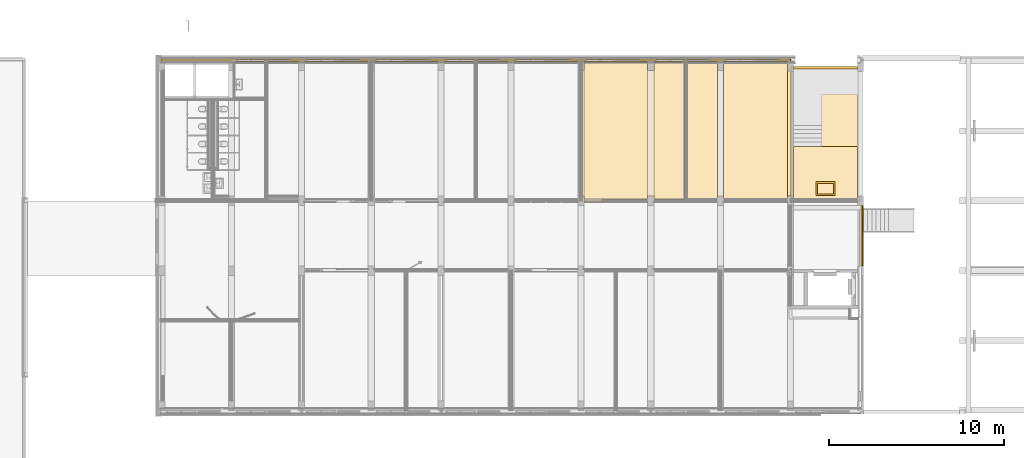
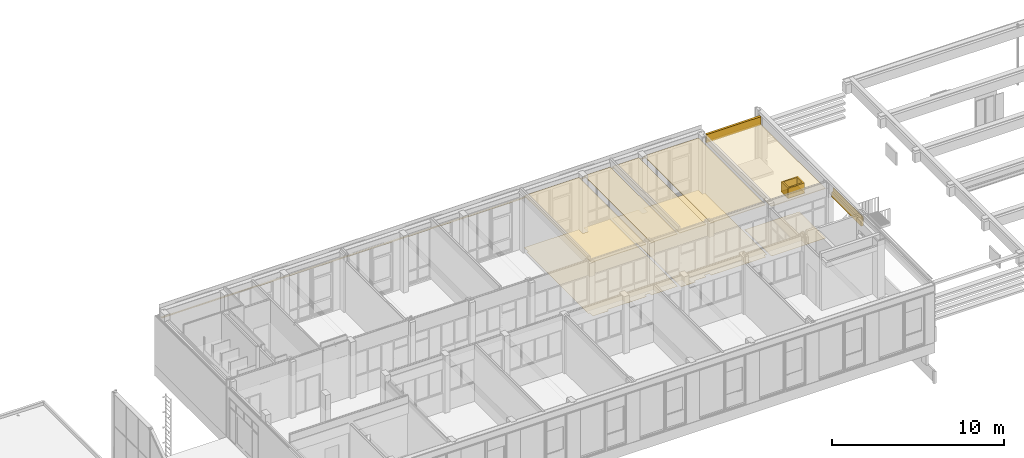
# One storey, part 46 of 54: 12 coverings.
"""IFC2X3 building model written with IfcOpenShell, lengths in millimetres."""

from ifc_helpers import new_model, entity, si_unit, converted_unit, derived_unit, money_unit, direction, frame, origin_with_axes, place, context, subcontext, project, spatial, faceted_brep, material, type_object, element, save


model = new_model("IFC2X3")

# Units and contexts
model_context = context("Model", 3, precision=0.01, world=origin_with_axes(), true_north=direction((0.0, 1.0)))
body_context = subcontext(model_context, "Body", "Model", "MODEL_VIEW")
ifc_project = project(units=[si_unit("LENGTHUNIT", "METRE", prefix="MILLI"), si_unit("AREAUNIT", "SQUARE_METRE"), si_unit("VOLUMEUNIT", "CUBIC_METRE"), converted_unit("PLANEANGLEUNIT", "DEGREE", entity("IfcPlaneAngleMeasure", 0.0174532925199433), si_unit("PLANEANGLEUNIT", "RADIAN"), dimensions=[0, 0, 0, 0, 0, 0, 0]), money_unit("EUR"), converted_unit("TIMEUNIT", "Year", entity("IfcTimeMeasure", 31557600.0), si_unit("TIMEUNIT", "SECOND"), dimensions=[0, 0, 1, 0, 0, 0, 0]), si_unit("MASSUNIT", "GRAM", prefix="KILO"), si_unit("THERMODYNAMICTEMPERATUREUNIT", "DEGREE_CELSIUS"), si_unit("LUMINOUSINTENSITYUNIT", "LUMEN"), si_unit("ENERGYUNIT", "JOULE", prefix="MEGA"), derived_unit("THERMALCONDUCTANCEUNIT", [(si_unit("POWERUNIT", "WATT"), 1), (si_unit("LENGTHUNIT", "METRE"), -1), (si_unit("THERMODYNAMICTEMPERATUREUNIT", "KELVIN"), -1)]), derived_unit("SPECIFICHEATCAPACITYUNIT", [(si_unit("ENERGYUNIT", "JOULE"), 1), (si_unit("MASSUNIT", "GRAM", prefix="KILO"), -1), (si_unit("THERMODYNAMICTEMPERATUREUNIT", "KELVIN"), -1)]), derived_unit("MASSDENSITYUNIT", [(si_unit("MASSUNIT", "GRAM", prefix="KILO"), 1), (si_unit("VOLUMEUNIT", "CUBIC_METRE"), -1)])], contexts=[model_context])

# Site, building, storey
site_placement = place(None, origin_with_axes())
site = spatial("IfcSite", under=ifc_project, at=site_placement, Name="<site naam>", CompositionType="ELEMENT")
building_placement = place(site_placement, origin_with_axes())
building = spatial("IfcBuilding", under=site, at=building_placement, Name="<Naam gebouw>", CompositionType="ELEMENT")
storey_placement = place(building_placement, frame((0.0, 0.0, 8500.0), z_axis=(0.0, 0.0, 1.0), x_axis=(1.0, 0.0, 0.0)))
storey = spatial("IfcBuildingStorey", under=building, at=storey_placement, Name="02 2e verdieping", CompositionType="ELEMENT", Elevation=8500.0)

# Coverings
ifc_material_1 = material(Name="systeemplafond 600*600 kleur wit")
covering_type_1 = type_object("IfcCoveringType", Name="PA-01a 40", PredefinedType="CEILING")
covering_1_placement = place(storey_placement, frame((39825.00013849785, 19924.99995693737, 3699.999999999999), z_axis=(0.0, 0.0, 1.0), x_axis=(1.0, 0.0, 0.0)))
element("IfcCovering", 1, at=covering_1_placement, inside=storey, type_object=covering_type_1, material=ifc_material_1, Name="45_Vloer_PA-01a", PredefinedType="CEILING", context=body_context, shape_type="Brep", body=[
    faceted_brep([(0.0, -7832.990729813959, 0.0), (0.0, -34.49995693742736, 0.0), (0.0, -34.49995693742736, 40.00000000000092), (0.0, -7832.990729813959, 40.00000000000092), (-3650.000081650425, -7832.990729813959, 0.0), (-3650.000081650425, -34.49995693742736, 0.0), (-3650.000081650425, -34.49995693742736, 39.99999999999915), (-3650.000081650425, -7832.990729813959, 40.00000000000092)], [[[0, 1, 2, 3]], [[4, 5, 1, 0]], [[5, 6, 2, 1]], [[3, 2, 6, 7]], [[3, 7, 4, 0]], [[7, 6, 5, 4]]]),
])
covering_2_placement = place(storey_placement, frame((42074.81223377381, 19925.0000037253, 3699.999999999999), z_axis=(0.0, 0.0, 1.0), x_axis=(1.0, 0.0, 0.0)))
element("IfcCovering", 2, at=covering_2_placement, inside=storey, type_object=covering_type_1, material=ifc_material_1, Name="45_Vloer_PA-01a", PredefinedType="CEILING", context=body_context, shape_type="Brep", body=[
    faceted_brep([(1750.187702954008, -7832.990749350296, 0.0), (1750.187702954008, -34.50000372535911, 0.0), (1750.187702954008, -34.50000372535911, 40.00000000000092), (1750.187702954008, -7832.990749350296, 40.00000000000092), (0.0, -7832.990749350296, 0.0), (0.0, -34.50000372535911, 0.0), (0.0, -34.50000372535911, 39.99999999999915), (0.0, -7832.990749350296, 40.00000000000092)], [[[0, 1, 2, 3]], [[4, 5, 1, 0]], [[5, 6, 2, 1]], [[3, 2, 6, 7]], [[3, 7, 4, 0]], [[7, 6, 5, 4]]]),
])
covering_3_placement = place(storey_placement, frame((44175.0000463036, 12274.99997258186, 3699.999999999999), z_axis=(0.0, 0.0, 1.0), x_axis=(1.0, 0.0, 0.0)))
element("IfcCovering", 3, at=covering_3_placement, inside=storey, type_object=covering_type_1, material=ifc_material_1, Name="45_Vloer_PA-01a", PredefinedType="CEILING", context=body_context, shape_type="Brep", body=[
    faceted_brep([(3649.999873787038, -182.9907182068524, 0.0), (3649.999873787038, 7615.500027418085, 0.0), (3649.999873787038, 7615.500027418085, 40.00000000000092), (3649.999873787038, -182.9907182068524, 40.00000000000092), (0.0, -182.9907182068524, 0.0), (0.0, 7615.500027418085, 0.0), (0.0, 7615.500027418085, 39.99999999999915), (0.0, -182.9907182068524, 40.00000000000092)], [[[0, 1, 2, 3]], [[4, 5, 1, 0]], [[5, 6, 2, 1]], [[3, 2, 6, 7]], [[3, 7, 4, 0]], [[7, 6, 5, 4]]]),
])
covering_4_placement = place(storey_placement, frame((40174.99999981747, 19924.99990535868, 3699.999999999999), z_axis=(0.0, 0.0, 1.0), x_axis=(1.0, 0.0, 0.0)))
element("IfcCovering", 4, at=covering_4_placement, inside=storey, type_object=covering_type_1, material=ifc_material_1, Name="45_Vloer_PA-01a", PredefinedType="CEILING", context=body_context, shape_type="Brep", body=[
    faceted_brep([(1749.996095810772, -7832.990617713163, 0.0), (1749.996095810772, -34.49990535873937, 0.0), (1749.996095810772, -34.49990535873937, 40.00000000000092), (1749.996095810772, -7832.990617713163, 40.00000000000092), (-0.0001221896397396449, -7832.990617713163, 0.0), (-8.874806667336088e-06, -34.49990535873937, 0.0), (-8.874806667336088e-06, -34.49990535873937, 40.00000000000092), (-0.0001221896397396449, -7832.990617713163, 40.00000000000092)], [[[0, 1, 2, 3]], [[4, 5, 1, 0]], [[5, 6, 2, 1]], [[3, 2, 6, 7]], [[3, 7, 4, 0]], [[7, 6, 5, 4]]]),
])
ifc_material_2 = material(Name="systeemplafond 600*600")
covering_type_2 = type_object("IfcCoveringType", Name="PA-01c 40", PredefinedType="CEILING")
covering_5_placement = place(storey_placement, frame((51825.02684814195, 19685.91067811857, 3462.999999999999), z_axis=(0.0, 0.0, 1.0), x_axis=(1.0, 0.0, 0.0)))
element("IfcCovering", 5, at=covering_5_placement, inside=storey, type_object=covering_type_2, material=ifc_material_2, Name="45_Vloer_PA-01c", PredefinedType="CEILING", context=body_context, shape_type="Brep", body=[
    faceted_brep([(0.0, 0.0, 40.00000000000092), (0.0, 0.0, 0.0), (-3650.026848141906, 0.0, 0.0), (-3650.026848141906, 0.0, 40.00000000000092), (0.0, -7610.910678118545, 40.00000000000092), (0.0, -7610.910678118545, 0.0), (-3650.026848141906, -7610.910678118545, 0.0), (-2375.02676945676, -6591.818995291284, 0.0), (-2375.02676945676, -7391.818995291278, 0.0), (-1275.026769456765, -7391.818995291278, 0.0), (-1275.026769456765, -6591.818995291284, 0.0), (-3650.026848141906, -7610.910678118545, 40.00000000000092), (-1275.026769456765, -7391.818995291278, 40.00000000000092), (-2375.02676945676, -7391.818995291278, 40.00000000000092), (-2375.02676945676, -6591.818995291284, 40.00000000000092), (-1275.026769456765, -6591.818995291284, 40.00000000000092)], [[[0, 1, 2, 3]], [[4, 5, 1, 0]], [[2, 1, 5, 6], [7, 8, 9, 10]], [[3, 2, 6, 11]], [[4, 0, 3, 11], [12, 13, 14, 15]], [[11, 6, 5, 4]], [[13, 8, 7, 14]], [[12, 9, 8, 13]], [[15, 10, 9, 12]], [[14, 7, 10, 15]]]),
])
ifc_material_3 = material(Name="Behoud natuursteen tegels")
covering_type_3 = type_object("IfcCoveringType", Name="VA-06 3", PredefinedType="CEILING")
covering_6_placement = place(storey_placement, frame((48175.00000000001, 12022.55598975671, 0.0), z_axis=(0.0, 0.0, 1.0), x_axis=(1.0, 0.0, 0.0)))
element("IfcCovering", 6, at=covering_6_placement, inside=storey, type_object=covering_type_3, material=ifc_material_3, Name="43_Vloer_VA-06", PredefinedType="CEILING", context=body_context, shape_type="Brep", body=[
    faceted_brep([(0.0, 0.0, 3.000000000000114), (0.0, 0.0, 0.0), (3649.984182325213, 0.0, 0.0), (3649.984182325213, 0.0, 3.000000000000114), (0.0, 3097.444010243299, 3.000000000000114), (0.0, 3097.444010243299, 0.0), (3649.984182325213, 3097.444010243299, 0.0), (3649.984182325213, 3097.444010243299, 3.000000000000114)], [[[0, 1, 2, 3]], [[4, 5, 1, 0]], [[2, 1, 5, 6]], [[3, 2, 6, 7]], [[4, 0, 3, 7]], [[7, 6, 5, 4]]]),
])
ifc_material_4 = material(Name="Vinyl type 01a")
covering_type_4 = type_object("IfcCoveringType", Name="VA-01a 3", PredefinedType="CEILING")
covering_7_placement = place(storey_placement, frame((42074.81225075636, 11925.00000000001, 19.99999999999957), z_axis=(0.0, 0.0, 1.0), x_axis=(1.0, 0.0, 0.0)))
element("IfcCovering", 7, at=covering_7_placement, inside=storey, type_object=covering_type_4, material=ifc_material_4, Name="43_Vloer_VA-01a", PredefinedType="CEILING", context=body_context, shape_type="Brep", body=[
    faceted_brep([(0.0, 0.0, 3.000000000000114), (0.0, 0.0, 0.0), (967.3227914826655, 0.0, 0.0), (967.3227914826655, 0.0, 3.000000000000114), (0.0, 7999.999969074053, 3.000000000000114), (0.0, 7999.999969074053, 0.0), (1750.187748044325, 7999.999969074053, 0.0), (1750.187748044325, 7525.000090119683, 0.0), (2100.187746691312, 7525.000090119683, 0.0), (2100.187746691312, 7999.999969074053, 0.0), (5750.187732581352, 7999.999969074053, 0.0), (5750.187732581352, 7525.000090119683, 0.0), (5940.265694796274, 7525.000090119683, 0.0), (5940.265694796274, 349.9998794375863, 0.0), (5750.187613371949, 349.9998794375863, 0.0), (5750.187613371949, 149.9999994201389, 0.0), (2100.187746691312, 149.9999994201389, 0.0), (2100.187746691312, 350.0001178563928, 0.0), (1750.187748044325, 350.0001178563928, 0.0), (1750.187748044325, 149.9999994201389, 0.0), (967.3227914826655, 149.9999994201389, 0.0), (967.3227914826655, 149.9999994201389, 3.000000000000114), (1750.187748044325, 149.9999994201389, 3.000000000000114), (1750.187748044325, 350.0001178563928, 3.000000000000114), (2100.187746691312, 350.0001178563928, 3.000000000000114), (2100.187746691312, 149.9999994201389, 3.000000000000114), (5750.187613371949, 149.9999994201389, 3.000000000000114), (5750.187613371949, 349.9998794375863, 3.000000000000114), (5940.265694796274, 349.9998794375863, 3.000000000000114), (5940.265694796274, 7525.000090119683, 3.000000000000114), (5750.187732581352, 7525.000090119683, 3.000000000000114), (5750.187732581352, 7999.999969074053, 3.000000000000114), (2100.187746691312, 7999.999969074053, 3.000000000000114), (2100.187746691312, 7525.000090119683, 3.000000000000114), (1750.187748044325, 7525.000090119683, 3.000000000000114), (1750.187748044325, 7999.999969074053, 3.000000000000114)], [[[0, 1, 2, 3]], [[4, 5, 1, 0]], [[2, 1, 5, 6, 7, 8, 9, 10, 11, 12, 13, 14, 15, 16, 17, 18, 19, 20]], [[3, 2, 20, 21]], [[4, 0, 3, 21, 22, 23, 24, 25, 26, 27, 28, 29, 30, 31, 32, 33, 34, 35]], [[35, 6, 5, 4]], [[34, 7, 6, 35]], [[33, 8, 7, 34]], [[32, 9, 8, 33]], [[31, 10, 9, 32]], [[30, 11, 10, 31]], [[29, 12, 11, 30]], [[28, 13, 12, 29]], [[27, 14, 13, 28]], [[26, 15, 14, 27]], [[25, 16, 15, 26]], [[24, 17, 16, 25]], [[23, 18, 17, 24]], [[22, 19, 18, 23]], [[21, 20, 19, 22]]]),
])
covering_8_placement = place(storey_placement, frame((36075.03749826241, 19449.99975133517, 19.99999999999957), z_axis=(0.0, 0.0, 1.0), x_axis=(1.0, 0.0, 0.0)))
element("IfcCovering", 8, at=covering_8_placement, inside=storey, type_object=covering_type_4, material=ifc_material_4, Name="43_Vloer_VA-01a", PredefinedType="CEILING", context=body_context, shape_type="Brep", body=[
    faceted_brep([(0.0, 0.0, 3.000000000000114), (0.0, 0.0, 0.0), (0.0, -7174.99951864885, 0.0), (0.0, -7174.99951864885, 3.000000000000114), (99.96251766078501, 0.0004759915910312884, 3.000000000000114), (99.96251766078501, 0.0004759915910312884, 0.0), (99.96251766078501, 475.000217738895, 0.0), (3751.282931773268, 475.000217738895, 0.0), (3751.282931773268, 0.0003569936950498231, 0.0), (4099.962597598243, 0.0003569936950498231, 0.0), (4099.962597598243, 475.000217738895, 0.0), (5849.958646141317, 475.000217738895, 0.0), (5849.958646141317, -7374.999751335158, 0.0), (4099.962597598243, -7374.999751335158, 0.0), (4099.962597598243, -7174.999637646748, 0.0), (3749.962412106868, -7174.999637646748, 0.0), (3749.962412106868, -7374.218375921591, 0.0), (1133.962501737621, -7374.218375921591, 0.0), (1133.962501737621, -7524.999751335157, 0.0), (99.96251766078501, -7524.999751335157, 0.0), (99.96251766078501, -7174.99951864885, 0.0), (99.96251766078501, -7174.99951864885, 3.000000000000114), (99.96251766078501, -7524.999751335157, 3.000000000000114), (1133.962501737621, -7524.999751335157, 3.000000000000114), (1133.962501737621, -7374.218375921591, 3.000000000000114), (3749.962412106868, -7374.218375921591, 3.000000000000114), (3749.962412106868, -7174.999637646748, 3.000000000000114), (4099.962597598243, -7174.999637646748, 3.000000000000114), (4099.962597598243, -7374.999751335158, 3.000000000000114), (5849.958646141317, -7374.999751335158, 3.000000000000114), (5849.958646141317, 475.000217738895, 3.000000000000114), (4099.962597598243, 475.000217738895, 3.000000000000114), (4099.962597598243, 0.0003569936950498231, 3.000000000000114), (3751.282931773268, 0.0003569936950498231, 3.000000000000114), (3751.282931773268, 475.000217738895, 3.000000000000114), (99.96251766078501, 475.000217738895, 3.000000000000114)], [[[0, 1, 2, 3]], [[4, 5, 1, 0]], [[2, 1, 5, 6, 7, 8, 9, 10, 11, 12, 13, 14, 15, 16, 17, 18, 19, 20]], [[3, 2, 20, 21]], [[4, 0, 3, 21, 22, 23, 24, 25, 26, 27, 28, 29, 30, 31, 32, 33, 34, 35]], [[35, 6, 5, 4]], [[34, 7, 6, 35]], [[33, 8, 7, 34]], [[32, 9, 8, 33]], [[31, 10, 9, 32]], [[30, 11, 10, 31]], [[29, 12, 11, 30]], [[28, 13, 12, 29]], [[27, 14, 13, 28]], [[26, 15, 14, 27]], [[25, 16, 15, 26]], [[24, 17, 16, 25]], [[23, 18, 17, 24]], [[22, 19, 18, 23]], [[21, 20, 19, 22]]]),
])
ifc_material_5 = material(Name="akoestisch spuitwerk")
covering_type_5 = type_object("IfcCoveringType", Name="PA-06 25", PredefinedType="CEILING")
covering_9_placement = place(storey_placement, frame((11934.99999662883, 19999.99999627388, 3460.000000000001), z_axis=(0.0, 0.0, 1.0), x_axis=(1.0, 0.0, 0.0)))
element("IfcCovering", 9, at=covering_9_placement, inside=storey, type_object=covering_type_5, material=ifc_material_5, Name="45_Vloer_PA-06", PredefinedType="CEILING", context=body_context, shape_type="Brep", body=[
    faceted_brep([(0.0, 0.0, 25.00000000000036), (0.0, 0.0, 0.0), (36080.07785763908, 0.0, 0.0), (36080.07785763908, 0.0, 25.00000000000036), (0.0, 110.0000037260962, 25.00000000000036), (0.0, 110.0000037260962, 0.0), (36080.07785763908, 110.0000037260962, 0.0), (36080.07785763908, 110.0000037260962, 25.00000000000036)], [[[0, 1, 2, 3]], [[4, 5, 1, 0]], [[2, 1, 5, 6]], [[3, 2, 6, 7]], [[4, 0, 3, 7]], [[7, 6, 5, 4]]]),
])
ifc_material_6 = material(Name="koven gips")
covering_type_6 = type_object("IfcCoveringType", Name="koven gips 620", PredefinedType="CEILING")
covering_10_placement = place(storey_placement, frame((52024.99845106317, 11725.00000000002, 3039.999999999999), z_axis=(0.0, 0.0, 1.0), x_axis=(1.0, 0.0, 0.0)))
element("IfcCovering", 10, at=covering_10_placement, inside=storey, type_object=covering_type_6, material=ifc_material_6, Name="45_Vloer_koven", PredefinedType="CEILING", context=body_context, shape_type="Brep", body=[
    faceted_brep([(0.0, 0.0, 0.0), (0.0, 0.0, 350.0000000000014), (110.0015489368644, 0.0, 350.0000000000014), (110.0015489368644, 0.0, 620.000000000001), (150.0015489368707, 0.0, 620.000000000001), (150.0015489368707, 0.0, 0.0), (0.0, -3449.999999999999, 0.0), (0.0, -3449.999999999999, 350.0000000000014), (110.0015489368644, -3449.999999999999, 350.0000000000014), (110.0015489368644, -3449.999999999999, 620.000000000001), (150.0015489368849, -3449.999999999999, 620.000000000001), (150.0015489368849, -3449.999999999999, 0.0)], [[[0, 1, 2, 3, 4, 5]], [[6, 7, 1, 0]], [[8, 2, 1, 7]], [[8, 9, 3, 2]], [[4, 3, 9, 10]], [[5, 4, 10, 11]], [[5, 11, 6, 0]], [[9, 8, 7, 6, 11, 10]]]),
])
ifc_material_7 = material(Name="aftimmering/koven multiplex")
covering_type_7 = type_object("IfcCoveringType", Name="aftimmering/koven multiplex 584", PredefinedType="CEILING")
covering_11_placement = place(storey_placement, frame((51825.00000000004, 19685.91067811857, 3465.999999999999), z_axis=(0.0, 0.0, 1.0), x_axis=(1.0, 0.0, 0.0)))
element("IfcCovering", 11, at=covering_11_placement, inside=storey, type_object=covering_type_7, material=ifc_material_7, Name="45_Vloer_aftimmering/koven", PredefinedType="CEILING", context=body_context, shape_type="Brep", body=[
    faceted_brep([(0.0, 0.0, 584.2052666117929), (0.0, 0.0, 0.0), (-3649.999999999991, 0.0, 0.0), (-3649.999999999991, 0.0, 584.2052666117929), (0.0, -150.0000036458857, 584.2052666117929), (0.0, -150.0000036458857, 0.0), (-3649.999999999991, -150.0000036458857, 0.0), (-3649.999999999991, -150.0000036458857, 584.2052666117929)], [[[0, 1, 2, 3]], [[4, 5, 1, 0]], [[2, 1, 5, 6]], [[3, 2, 6, 7]], [[4, 0, 3, 7]], [[7, 6, 5, 4]]]),
])
covering_type_8 = type_object("IfcCoveringType", Name="aftimmering/koven multiplex 734", PredefinedType="CEILING")
covering_12_placement = place(storey_placement, frame((49450.00007868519, 12294.09168282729, 3465.999999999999), z_axis=(0.0, 0.0, 1.0), x_axis=(1.0, 0.0, 0.0)))
element("IfcCovering", 12, at=covering_12_placement, inside=storey, type_object=covering_type_8, material=ifc_material_7, Name="45_Vloer_aftimmering/koven", PredefinedType="CEILING", context=body_context, shape_type="Brep", body=[
    faceted_brep([(0.0, 0.0, 734.0000000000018), (0.0, 0.0, 0.0), (1099.999999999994, 0.0, 0.0), (1099.999999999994, 0.0, 734.0000000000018), (0.0, 799.9999999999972, 734.0000000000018), (0.0, 799.9999999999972, 0.0), (1099.999999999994, 799.9999999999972, 0.0), (1000.0, 99.99999999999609, 0.0), (1000.0, 700.000000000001, 0.0), (99.99999999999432, 700.000000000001, 0.0), (99.99999999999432, 99.99999999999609, 0.0), (1099.999999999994, 799.9999999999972, 734.0000000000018), (99.99999999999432, 700.000000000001, 734.0000000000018), (1000.0, 700.000000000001, 734.0000000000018), (1000.0, 99.99999999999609, 734.0000000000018), (99.99999999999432, 99.99999999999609, 734.0000000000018)], [[[0, 1, 2, 3]], [[4, 5, 1, 0]], [[2, 1, 5, 6], [7, 8, 9, 10]], [[3, 2, 6, 11]], [[4, 0, 3, 11], [12, 13, 14, 15]], [[11, 6, 5, 4]], [[13, 8, 7, 14]], [[12, 9, 8, 13]], [[15, 10, 9, 12]], [[14, 7, 10, 15]]]),
])

save(model, "model.ifc")
